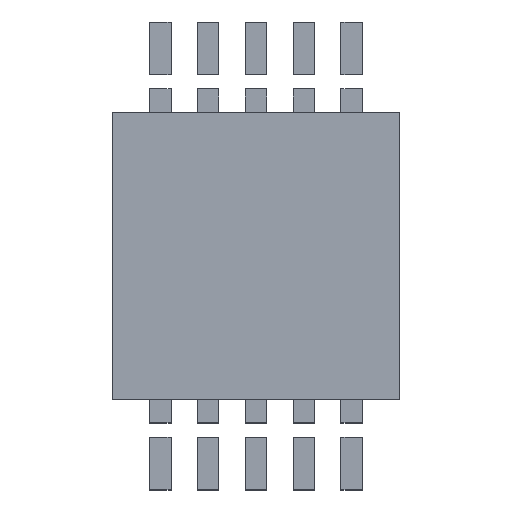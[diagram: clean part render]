
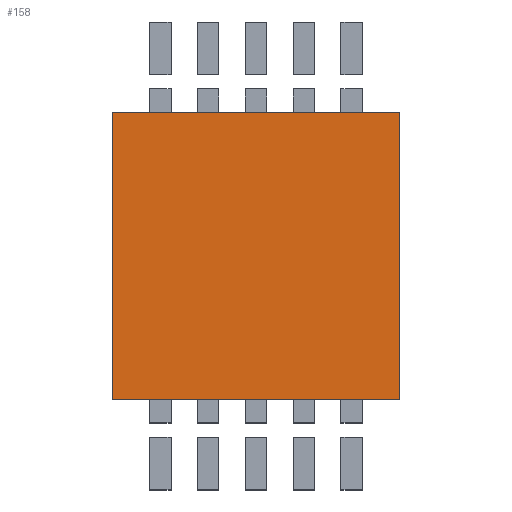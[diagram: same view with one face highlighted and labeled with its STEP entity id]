
A CAD part, top view. The second image highlights one B-rep face of the part: STEP entity #158.
In plain terms, the highlighted planar face has unit normal (0, 0, 1).
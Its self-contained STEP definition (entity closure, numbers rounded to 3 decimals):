
#46 = VERTEX_POINT('',#47);
#47 = CARTESIAN_POINT('',(-1.5,-1.5,1.1));
#62 = VERTEX_POINT('',#63);
#63 = CARTESIAN_POINT('',(-1.5,1.5,1.1));
#69 = EDGE_CURVE('',#46,#62,#70,.T.);
#70 = LINE('',#71,#72);
#71 = CARTESIAN_POINT('',(-1.5,-1.5,1.1));
#72 = VECTOR('',#73,1.);
#73 = DIRECTION('',(-0.,1.,0.));
#115 = VERTEX_POINT('',#116);
#116 = CARTESIAN_POINT('',(1.5,-1.5,1.1));
#124 = VERTEX_POINT('',#125);
#125 = CARTESIAN_POINT('',(1.5,1.5,1.1));
#131 = EDGE_CURVE('',#115,#124,#132,.T.);
#132 = LINE('',#133,#134);
#133 = CARTESIAN_POINT('',(1.5,-1.5,1.1));
#134 = VECTOR('',#135,1.);
#135 = DIRECTION('',(-0.,1.,0.));
#146 = EDGE_CURVE('',#62,#124,#147,.T.);
#147 = LINE('',#148,#149);
#148 = CARTESIAN_POINT('',(-1.5,1.5,1.1));
#149 = VECTOR('',#150,1.);
#150 = DIRECTION('',(1.,0.,0.));
#158 = ADVANCED_FACE('',(#159),#170,.T.);
#159 = FACE_BOUND('',#160,.T.);
#160 = EDGE_LOOP('',(#161,#162,#168,#169));
#161 = ORIENTED_EDGE('',*,*,#69,.F.);
#162 = ORIENTED_EDGE('',*,*,#163,.F.);
#163 = EDGE_CURVE('',#115,#46,#164,.T.);
#164 = LINE('',#165,#166);
#165 = CARTESIAN_POINT('',(1.5,-1.5,1.1));
#166 = VECTOR('',#167,1.);
#167 = DIRECTION('',(-1.,0.,0.));
#168 = ORIENTED_EDGE('',*,*,#131,.T.);
#169 = ORIENTED_EDGE('',*,*,#146,.F.);
#170 = PLANE('',#171);
#171 = AXIS2_PLACEMENT_3D('',#172,#173,#174);
#172 = CARTESIAN_POINT('',(-1.5,-1.5,1.1));
#173 = DIRECTION('',(0.,0.,1.));
#174 = DIRECTION('',(1.,0.,-0.));
